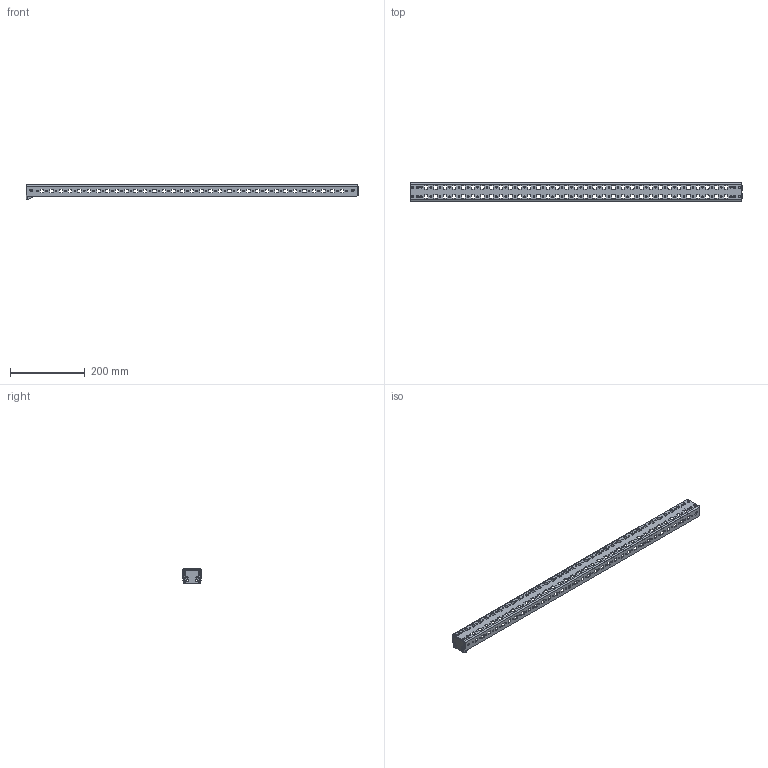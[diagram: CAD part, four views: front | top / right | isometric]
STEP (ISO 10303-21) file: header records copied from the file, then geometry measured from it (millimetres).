
FILE_DESCRIPTION(('STEP AP203'), '1');
FILE_NAME('MG 100.06 L Ðåéêà ìîíòàæíàÿ v2', '2021-05-20T09:13:17', ('UNSPECIFIED'), ('UNSPECIFIED'), 'ASCON STEP Converter 1.3', 'ASCON Math Kernel', '');
FILE_SCHEMA(('CONFIG_CONTROL_DESIGN'));
Length unit declared in the file: millimetre
Products named in the file (3): MG 100.06 L 01.001 Ðåéêà ìîíòàæíàÿ v2; MG 06 L 01.002 Êðîíøòåéí ðåéêè ìîíòàæíîé v2
Assembly tree (3 placements, depth 2):
  (unnamed)
    MG 100.06 L 01.001 Ðåéêà ìîíòàæíàÿ v2
    MG 06 L 01.002 Êðîíøòåéí ðåéêè ìîíòàæíîé v2  x2
Bounding box: 885.55 x 49.15 x 39 mm (x, y, z)
Volume: 168510.4 mm3; surface area: 188412.6 mm2
Topology: 3 solids, 3 shells, 1350 faces, 3952 edges, 2608 vertices
Faces by surface type: cylinder 732, plane 610, bspline 8
Full cylindrical faces by diameter (mm): 4.2 x160, 6 x4, 6.5 x12
Entity records: 55224 total; most frequent: CARTESIAN_POINT 8402, DIRECTION 7622, ORIENTED_EDGE 7296, EDGE_CURVE 3648, AXIS2_PLACEMENT_3D 2694, VERTEX_POINT 2524, LINE 2234, VECTOR 2234
